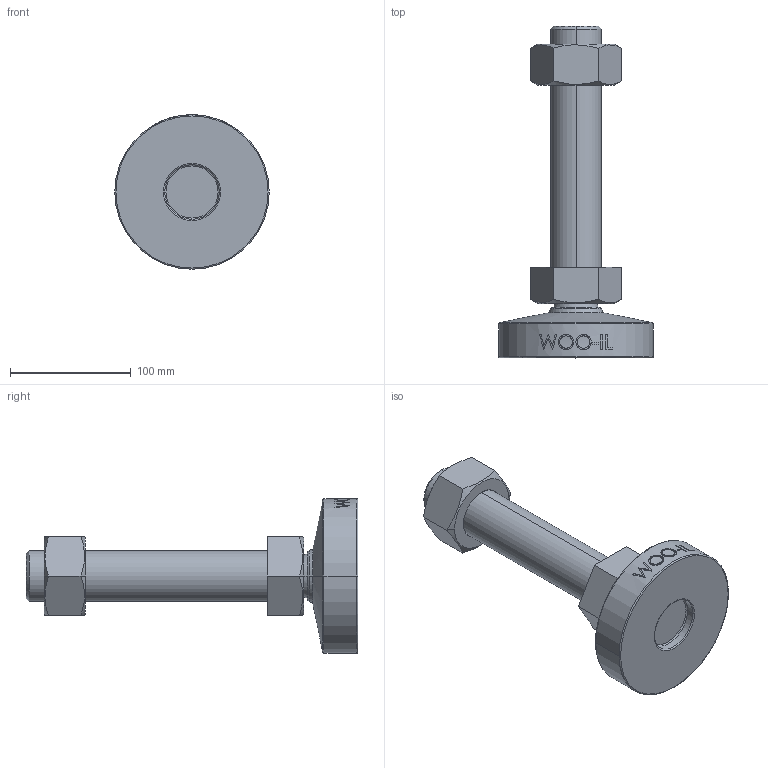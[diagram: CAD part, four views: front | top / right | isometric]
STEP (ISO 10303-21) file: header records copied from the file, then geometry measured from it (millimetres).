
FILE_DESCRIPTION (( 'STEP AP214' ), '1' );
FILE_NAME ('MFN128-M42-200.step', '2021-03-29T07:34:43', ( '' ), ( '' ), 'SwSTEP 2.0', 'SolidWorks 2019', '' );
FILE_SCHEMA (( 'AUTOMOTIVE_DESIGN' ));
Length unit declared in the file: millimetre
Products named in the file (2): MFN128-M42-200
Bounding box: 128 x 275 x 128 mm (x, y, z)
Volume: 885400.6 mm3; surface area: 93242.3 mm2
Topology: 2 solids, 2 shells, 107 faces, 247 edges, 156 vertices
Faces by surface type: plane 47, cone 18, cylinder 16, bspline 16, torus 8, sphere 2
Entity records: 4761 total; most frequent: CARTESIAN_POINT 2394, ORIENTED_EDGE 494, DIRECTION 447, EDGE_CURVE 247, AXIS2_PLACEMENT_3D 173, VERTEX_POINT 156, EDGE_LOOP 121, FACE_OUTER_BOUND 107
